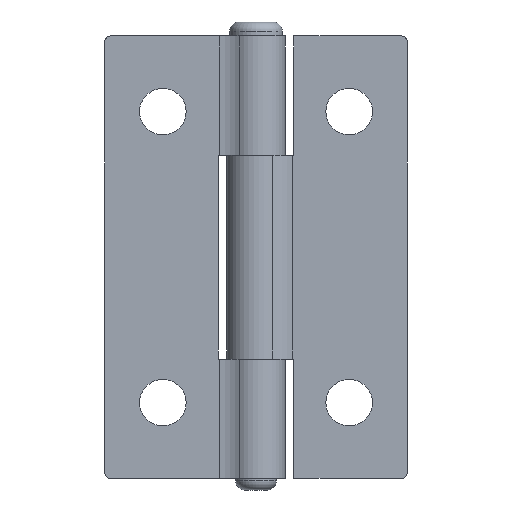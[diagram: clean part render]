
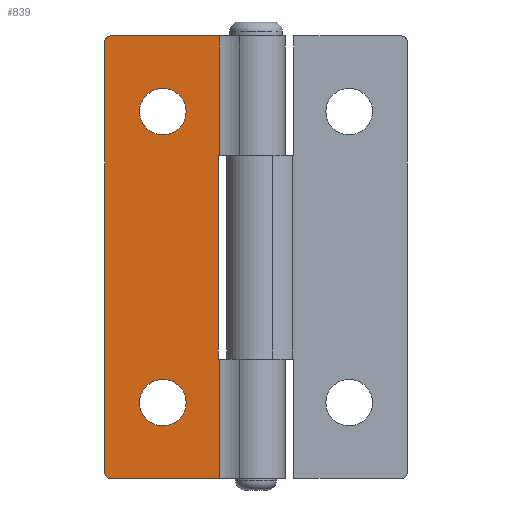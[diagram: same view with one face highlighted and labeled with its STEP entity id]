
A CAD part, front view. The second image highlights one B-rep face of the part: STEP entity #839.
In plain terms, the highlighted planar face has unit normal (0, -1, 0).
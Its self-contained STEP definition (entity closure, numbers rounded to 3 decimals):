
#48=FACE_BOUND('',#128,.T.);
#49=FACE_BOUND('',#129,.T.);
#74=FACE_OUTER_BOUND('',#127,.T.);
#127=EDGE_LOOP('',(#600,#601,#602,#603,#604,#605,#606,#607,#608,#609));
#128=EDGE_LOOP('',(#610));
#129=EDGE_LOOP('',(#611));
#208=CIRCLE('',#905,0.5);
#209=CIRCLE('',#906,0.5);
#210=CIRCLE('',#907,2.);
#211=CIRCLE('',#908,2.);
#252=LINE('',#1278,#316);
#256=LINE('',#1294,#320);
#259=LINE('',#1300,#323);
#262=LINE('',#1314,#326);
#263=LINE('',#1316,#327);
#264=LINE('',#1320,#328);
#265=LINE('',#1324,#329);
#266=LINE('',#1325,#330);
#316=VECTOR('',#1002,0.088);
#320=VECTOR('',#1016,17.5);
#323=VECTOR('',#1021,0.088);
#326=VECTOR('',#1034,10.25);
#327=VECTOR('',#1035,9.338);
#328=VECTOR('',#1038,37.);
#329=VECTOR('',#1041,9.338);
#330=VECTOR('',#1042,10.25);
#380=VERTEX_POINT('',#1276);
#381=VERTEX_POINT('',#1277);
#388=VERTEX_POINT('',#1293);
#390=VERTEX_POINT('',#1299);
#396=VERTEX_POINT('',#1313);
#397=VERTEX_POINT('',#1315);
#398=VERTEX_POINT('',#1317);
#399=VERTEX_POINT('',#1319);
#400=VERTEX_POINT('',#1321);
#401=VERTEX_POINT('',#1323);
#402=VERTEX_POINT('',#1326);
#403=VERTEX_POINT('',#1328);
#464=EDGE_CURVE('',#380,#381,#252,.T.);
#472=EDGE_CURVE('',#388,#380,#256,.T.);
#475=EDGE_CURVE('',#390,#388,#259,.T.);
#482=EDGE_CURVE('',#396,#381,#262,.T.);
#483=EDGE_CURVE('',#397,#396,#263,.T.);
#484=EDGE_CURVE('',#398,#397,#208,.T.);
#485=EDGE_CURVE('',#398,#399,#264,.T.);
#486=EDGE_CURVE('',#400,#399,#209,.T.);
#487=EDGE_CURVE('',#401,#400,#265,.T.);
#488=EDGE_CURVE('',#390,#401,#266,.T.);
#489=EDGE_CURVE('',#402,#402,#210,.T.);
#490=EDGE_CURVE('',#403,#403,#211,.T.);
#600=ORIENTED_EDGE('',*,*,#475,.T.);
#601=ORIENTED_EDGE('',*,*,#472,.T.);
#602=ORIENTED_EDGE('',*,*,#464,.T.);
#603=ORIENTED_EDGE('',*,*,#482,.F.);
#604=ORIENTED_EDGE('',*,*,#483,.F.);
#605=ORIENTED_EDGE('',*,*,#484,.F.);
#606=ORIENTED_EDGE('',*,*,#485,.T.);
#607=ORIENTED_EDGE('',*,*,#486,.F.);
#608=ORIENTED_EDGE('',*,*,#487,.F.);
#609=ORIENTED_EDGE('',*,*,#488,.F.);
#610=ORIENTED_EDGE('',*,*,#489,.T.);
#611=ORIENTED_EDGE('',*,*,#490,.T.);
#815=PLANE('',#904);
#839=ADVANCED_FACE('',(#74,#48,#49),#815,.T.);
#904=AXIS2_PLACEMENT_3D('',#1312,#1032,#1033);
#905=AXIS2_PLACEMENT_3D('',#1318,#1036,#1037);
#906=AXIS2_PLACEMENT_3D('',#1322,#1039,#1040);
#907=AXIS2_PLACEMENT_3D('',#1327,#1043,#1044);
#908=AXIS2_PLACEMENT_3D('',#1329,#1045,#1046);
#1002=DIRECTION('',(1.,0.,0.));
#1016=DIRECTION('',(0.,0.,1.));
#1021=DIRECTION('',(-1.,0.,0.));
#1032=DIRECTION('center_axis',(0.,-1.,0.));
#1033=DIRECTION('ref_axis',(1.,0.,0.));
#1034=DIRECTION('',(0.,0.,-1.));
#1035=DIRECTION('',(1.,0.,0.));
#1036=DIRECTION('center_axis',(0.,1.,0.));
#1037=DIRECTION('ref_axis',(-0.707,0.,0.707));
#1038=DIRECTION('',(0.,0.,-1.));
#1039=DIRECTION('center_axis',(0.,1.,0.));
#1040=DIRECTION('ref_axis',(-0.707,0.,-0.707));
#1041=DIRECTION('',(-1.,0.,0.));
#1042=DIRECTION('',(0.,0.,-1.));
#1043=DIRECTION('center_axis',(0.,1.,0.));
#1044=DIRECTION('ref_axis',(1.,0.,0.));
#1045=DIRECTION('center_axis',(0.,1.,0.));
#1046=DIRECTION('ref_axis',(1.,0.,0.));
#1276=CARTESIAN_POINT('',(-3.25,-1.5,8.75));
#1277=CARTESIAN_POINT('',(-3.162,-1.5,8.75));
#1278=CARTESIAN_POINT('',(-8.125,-1.5,8.75));
#1293=CARTESIAN_POINT('',(-3.25,-1.5,-8.75));
#1294=CARTESIAN_POINT('',(-3.25,-1.5,-4.375));
#1299=CARTESIAN_POINT('',(-3.162,-1.5,-8.75));
#1300=CARTESIAN_POINT('',(-4.875,-1.5,-8.75));
#1312=CARTESIAN_POINT('Origin',(-13.,-1.5,0.));
#1313=CARTESIAN_POINT('',(-3.162,-1.5,19.));
#1314=CARTESIAN_POINT('',(-3.162,-1.5,0.));
#1315=CARTESIAN_POINT('',(-12.5,-1.5,19.));
#1316=CARTESIAN_POINT('',(-13.,-1.5,19.));
#1317=CARTESIAN_POINT('',(-13.,-1.5,18.5));
#1318=CARTESIAN_POINT('Origin',(-12.5,-1.5,18.5));
#1319=CARTESIAN_POINT('',(-13.,-1.5,-18.5));
#1320=CARTESIAN_POINT('',(-13.,-1.5,0.));
#1321=CARTESIAN_POINT('',(-12.5,-1.5,-19.));
#1322=CARTESIAN_POINT('Origin',(-12.5,-1.5,-18.5));
#1323=CARTESIAN_POINT('',(-3.162,-1.5,-19.));
#1324=CARTESIAN_POINT('',(-13.,-1.5,-19.));
#1325=CARTESIAN_POINT('',(-3.162,-1.5,0.));
#1326=CARTESIAN_POINT('',(-10.,-1.5,12.5));
#1327=CARTESIAN_POINT('Origin',(-8.,-1.5,12.5));
#1328=CARTESIAN_POINT('',(-10.,-1.5,-12.5));
#1329=CARTESIAN_POINT('Origin',(-8.,-1.5,-12.5));
